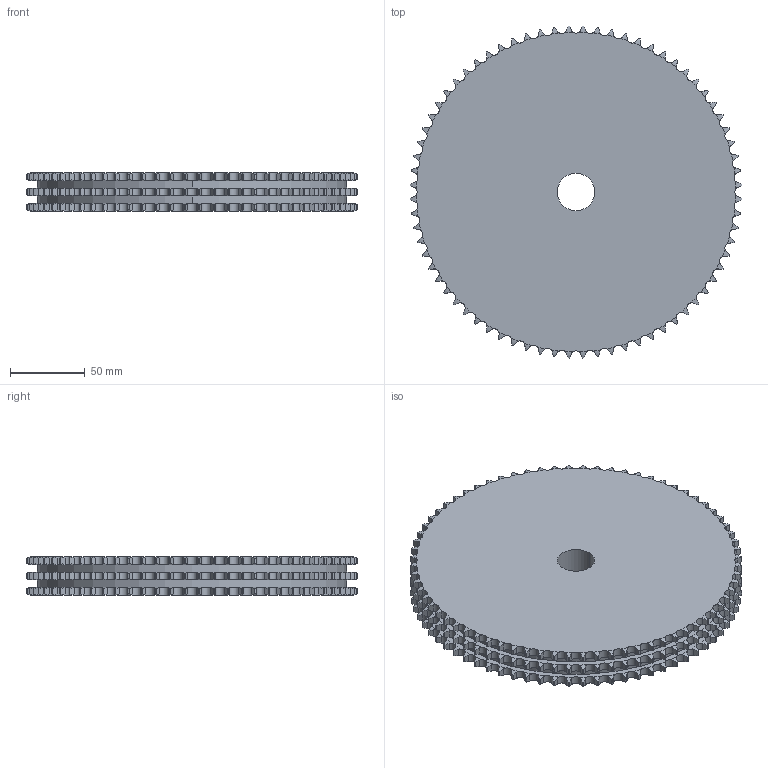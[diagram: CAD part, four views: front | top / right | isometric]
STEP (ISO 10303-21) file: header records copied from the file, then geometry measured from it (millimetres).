
FILE_DESCRIPTION((''),'2;1');
FILE_NAME('500-103-0072_PRT','2021-02-12T',('Brieden'),('Brieden'),'PRO/ENGINEER BY PARAMETRIC TECHNOLOGY CORPORATION, 2010160','PRO/ENGINEER BY PARAMETRIC TECHNOLOGY CORPORATION, 2010160','');
FILE_SCHEMA(('AUTOMOTIVE_DESIGN { 1 0 10303 214 1 1 1 1 }'));
Length unit declared in the file: millimetre
Products named in the file (1): 500-103-0072_PRT
Bounding box: 221.58 x 221.58 x 25.6 mm (x, y, z)
Volume: 890891.6 mm3; surface area: 107850.8 mm2
Topology: 1 solids, 1 shells, 1308 faces, 3906 edges, 2604 vertices
Faces by surface type: cylinder 870, torus 432, plane 6
Entity records: 64705 total; most frequent: CARTESIAN_POINT 19852, ORIENTED_EDGE 7812, DIRECTION 6102, PRESENTATION_STYLE_ASSIGNMENT 3907, STYLED_ITEM 3907, CURVE_STYLE 3906, EDGE_CURVE 3906, AXIS2_PLACEMENT_3D 2616
